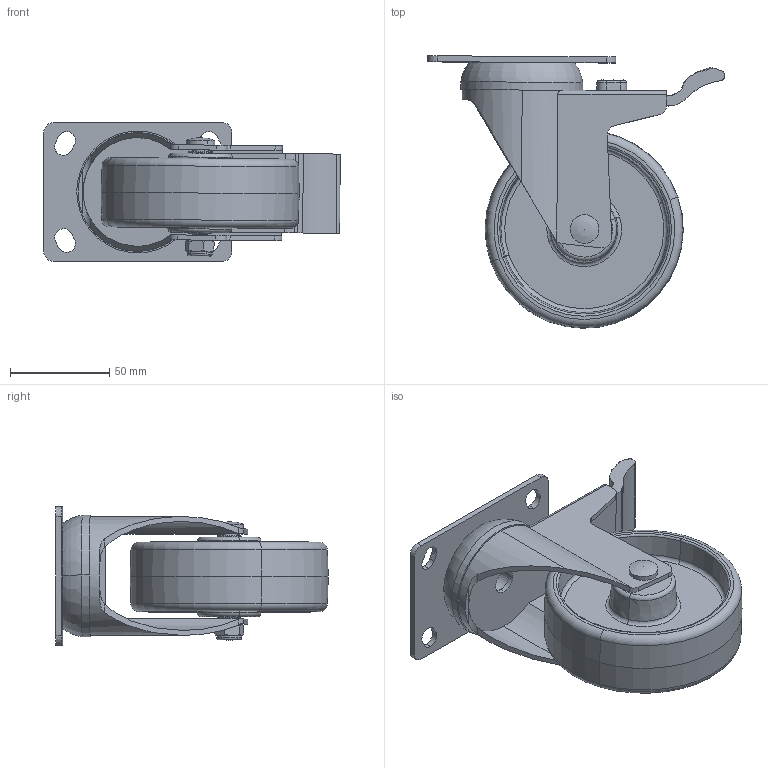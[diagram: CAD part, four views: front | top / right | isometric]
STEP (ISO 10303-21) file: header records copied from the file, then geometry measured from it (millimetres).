
FILE_DESCRIPTION (( 'STEP AP214' ), '1' );
FILE_NAME ('WCN100-P-TB.step', '2024-01-12T00:42:26', ( '' ), ( '' ), 'SwSTEP 2.0', 'SolidWorks 2022', '' );
FILE_SCHEMA (( 'AUTOMOTIVE_DESIGN' ));
Length unit declared in the file: millimetre
Products named in the file (10): WCN100-P-TB; 95X70 WC ; M8Nyloc; SP12-8-41; WC100-P-TB; WC-M8x55; BREAK; break step; 61.5 TOP CAP; WCN100
Assembly tree (9 placements, depth 2):
  WCN100-P-TB
    WC-M8x55
    M8Nyloc
    61.5 TOP CAP
    WC100-P-TB
    BREAK
    break step
    WCN100
    SP12-8-41
    95X70 WC 
Bounding box: 149.66 x 137.5 x 70 mm (x, y, z)
Volume: 250669.9 mm3; surface area: 98639.2 mm2
Topology: 9 solids, 9 shells, 842 faces, 2256 edges, 1487 vertices
Faces by surface type: plane 429, bspline 236, cylinder 116, torus 34, cone 26, sphere 1
Entity records: 44564 total; most frequent: CARTESIAN_POINT 21728, ORIENTED_EDGE 4506, DIRECTION 3159, EDGE_CURVE 2253, VERTEX_POINT 1485, LINE 1409, VECTOR 1409, EDGE_LOOP 920
